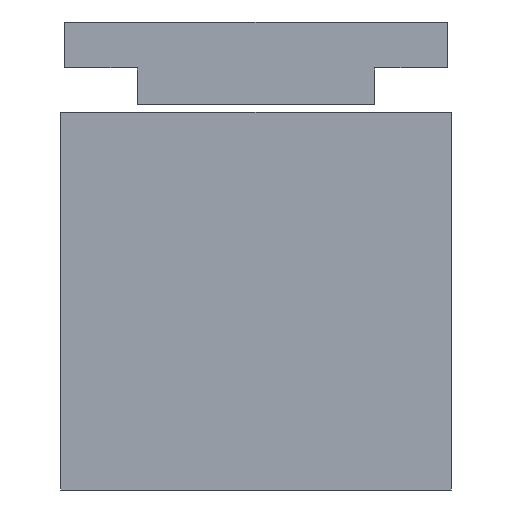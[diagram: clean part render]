
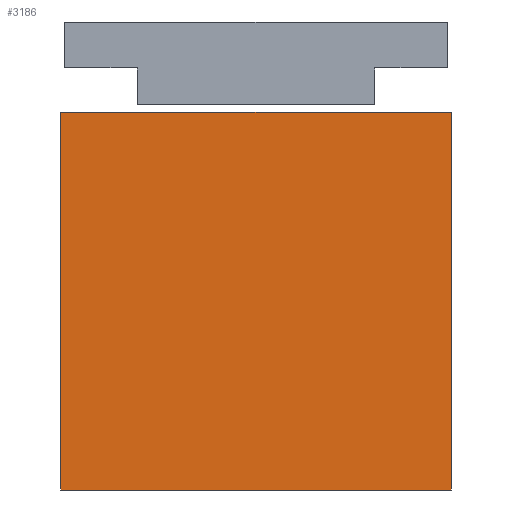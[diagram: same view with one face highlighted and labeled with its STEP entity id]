
A CAD part, left-side view. The second image highlights one B-rep face of the part: STEP entity #3186.
In plain terms, the highlighted planar face has unit normal (-1, 0, 0).
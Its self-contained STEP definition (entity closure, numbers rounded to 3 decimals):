
#47 = DIRECTION ( 'NONE',  ( 0., -1., 0. ) ) ;
#302 = VECTOR ( 'NONE', #5365, 1000. ) ;
#306 = CARTESIAN_POINT ( 'NONE',  ( -98., -25.5, 49.3 ) ) ;
#519 = LINE ( 'NONE', #2518, #302 ) ;
#963 = VERTEX_POINT ( 'NONE', #5678 ) ;
#1020 = CARTESIAN_POINT ( 'NONE',  ( -98., -25.5, 49.3 ) ) ;
#1435 = PLANE ( 'NONE',  #3074 ) ;
#1440 = DIRECTION ( 'NONE',  ( 0., 0., -1. ) ) ;
#1569 = EDGE_CURVE ( 'NONE', #4160, #1598, #519, .T. ) ;
#1598 = VERTEX_POINT ( 'NONE', #4906 ) ;
#1954 = ORIENTED_EDGE ( 'NONE', *, *, #5063, .F. ) ;
#1969 = ORIENTED_EDGE ( 'NONE', *, *, #1569, .T. ) ;
#2133 = DIRECTION ( 'NONE',  ( 0., 0., -1. ) ) ;
#2149 = VECTOR ( 'NONE', #47, 1000. ) ;
#2288 = LINE ( 'NONE', #4192, #2149 ) ;
#2371 = VECTOR ( 'NONE', #1440, 1000. ) ;
#2405 = DIRECTION ( 'NONE',  ( 0., 0., -1. ) ) ;
#2518 = CARTESIAN_POINT ( 'NONE',  ( -98., -25.5, 0. ) ) ;
#2624 = CARTESIAN_POINT ( 'NONE',  ( -98., 25.5, 49.3 ) ) ;
#2685 = EDGE_CURVE ( 'NONE', #4892, #1598, #4093, .T. ) ;
#2729 = FACE_OUTER_BOUND ( 'NONE', #3040, .T. ) ;
#3040 = EDGE_LOOP ( 'NONE', ( #1969, #4898, #1954, #4658 ) ) ;
#3074 = AXIS2_PLACEMENT_3D ( 'NONE', #1020, #5162, #2405 ) ;
#3084 = VECTOR ( 'NONE', #2133, 1000. ) ;
#3186 = ADVANCED_FACE ( 'NONE', ( #2729 ), #1435, .F. ) ;
#3498 = EDGE_CURVE ( 'NONE', #963, #4160, #5804, .T. ) ;
#3893 = CARTESIAN_POINT ( 'NONE',  ( -98., 25.5, 0. ) ) ;
#4093 = LINE ( 'NONE', #4147, #2371 ) ;
#4147 = CARTESIAN_POINT ( 'NONE',  ( -98., -25.5, 49.3 ) ) ;
#4160 = VERTEX_POINT ( 'NONE', #3893 ) ;
#4192 = CARTESIAN_POINT ( 'NONE',  ( -98., -25.5, 49.3 ) ) ;
#4658 = ORIENTED_EDGE ( 'NONE', *, *, #3498, .T. ) ;
#4892 = VERTEX_POINT ( 'NONE', #306 ) ;
#4898 = ORIENTED_EDGE ( 'NONE', *, *, #2685, .F. ) ;
#4906 = CARTESIAN_POINT ( 'NONE',  ( -98., -25.5, 0. ) ) ;
#5063 = EDGE_CURVE ( 'NONE', #963, #4892, #2288, .T. ) ;
#5162 = DIRECTION ( 'NONE',  ( 1., 0., 0. ) ) ;
#5365 = DIRECTION ( 'NONE',  ( 0., -1., 0. ) ) ;
#5678 = CARTESIAN_POINT ( 'NONE',  ( -98., 25.5, 49.3 ) ) ;
#5804 = LINE ( 'NONE', #2624, #3084 ) ;
